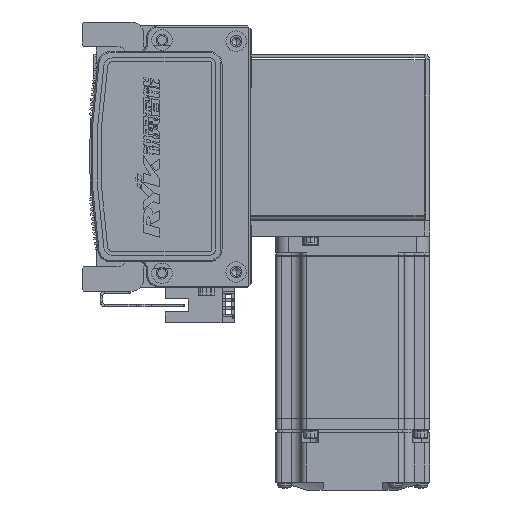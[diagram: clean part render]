
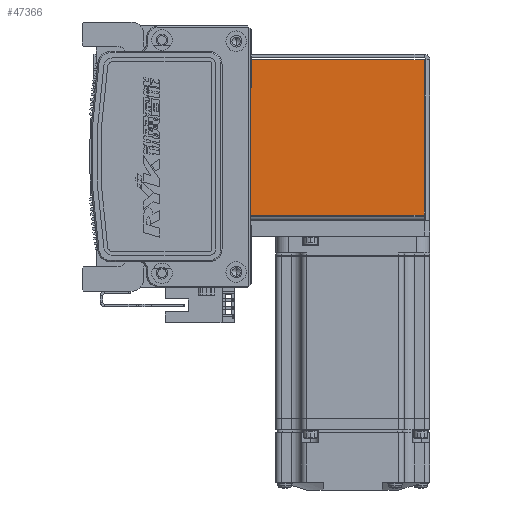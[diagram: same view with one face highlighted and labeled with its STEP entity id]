
A CAD part, left-side view. The second image highlights one B-rep face of the part: STEP entity #47366.
In plain terms, the highlighted planar face has unit normal (-1, 0, 0) as drawn and (0, 0, -1) by its records, which use the part's own axes.
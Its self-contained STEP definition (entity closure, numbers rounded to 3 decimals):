
#34 = CARTESIAN_POINT ( 'NONE',  ( 30.263, 72.5, -35. ) ) ;
#60 = LINE ( 'NONE', #39659, #29212 ) ;
#1762 = CARTESIAN_POINT ( 'NONE',  ( 0., 0., -35. ) ) ;
#2835 = VECTOR ( 'NONE', #33789, 1000. ) ;
#3636 = EDGE_CURVE ( 'NONE', #51954, #29136, #53416, .T. ) ;
#5258 = LINE ( 'NONE', #8858, #46672 ) ;
#8858 = CARTESIAN_POINT ( 'NONE',  ( 0., 72.5, -35. ) ) ;
#10225 = CARTESIAN_POINT ( 'NONE',  ( -30.293, 0.737, -35. ) ) ;
#13313 = EDGE_CURVE ( 'NONE', #29136, #66052, #5258, .T. ) ;
#16773 = CARTESIAN_POINT ( 'NONE',  ( 30.263, 72.5, -35. ) ) ;
#21953 = ORIENTED_EDGE ( 'NONE', *, *, #41317, .T. ) ;
#29136 = VERTEX_POINT ( 'NONE', #59242 ) ;
#29212 = VECTOR ( 'NONE', #44830, 1000. ) ;
#33789 = DIRECTION ( 'NONE',  ( 0., -1., 0. ) ) ;
#37179 = FACE_OUTER_BOUND ( 'NONE', #69747, .T. ) ;
#37469 = VERTEX_POINT ( 'NONE', #52476 ) ;
#37801 = ORIENTED_EDGE ( 'NONE', *, *, #72985, .F. ) ;
#38119 = CARTESIAN_POINT ( 'NONE',  ( -30.293, 0., -35. ) ) ;
#38445 = VECTOR ( 'NONE', #59857, 1000. ) ;
#39659 = CARTESIAN_POINT ( 'NONE',  ( 32.5, 0.737, -35. ) ) ;
#40751 = PLANE ( 'NONE',  #50233 ) ;
#41317 = EDGE_CURVE ( 'NONE', #66052, #37469, #44320, .T. ) ;
#43225 = ORIENTED_EDGE ( 'NONE', *, *, #13313, .T. ) ;
#44320 = LINE ( 'NONE', #16773, #2835 ) ;
#44830 = DIRECTION ( 'NONE',  ( 1., 0., 0. ) ) ;
#46326 = ORIENTED_EDGE ( 'NONE', *, *, #3636, .T. ) ;
#46672 = VECTOR ( 'NONE', #48285, 1000. ) ;
#47366 = ADVANCED_FACE ( 'NONE', ( #37179 ), #40751, .F. ) ;
#48285 = DIRECTION ( 'NONE',  ( 1., 0., 0. ) ) ;
#50233 = AXIS2_PLACEMENT_3D ( 'NONE', #1762, #52345, #57811 ) ;
#51954 = VERTEX_POINT ( 'NONE', #10225 ) ;
#52345 = DIRECTION ( 'NONE',  ( 0., 0., 1. ) ) ;
#52476 = CARTESIAN_POINT ( 'NONE',  ( 30.263, 0.737, -35. ) ) ;
#53416 = LINE ( 'NONE', #38119, #38445 ) ;
#57811 = DIRECTION ( 'NONE',  ( 0., -1., 0. ) ) ;
#59242 = CARTESIAN_POINT ( 'NONE',  ( -30.293, 72.5, -35. ) ) ;
#59857 = DIRECTION ( 'NONE',  ( 0., 1., 0. ) ) ;
#66052 = VERTEX_POINT ( 'NONE', #34 ) ;
#69747 = EDGE_LOOP ( 'NONE', ( #21953, #37801, #46326, #43225 ) ) ;
#72985 = EDGE_CURVE ( 'NONE', #51954, #37469, #60, .T. ) ;
